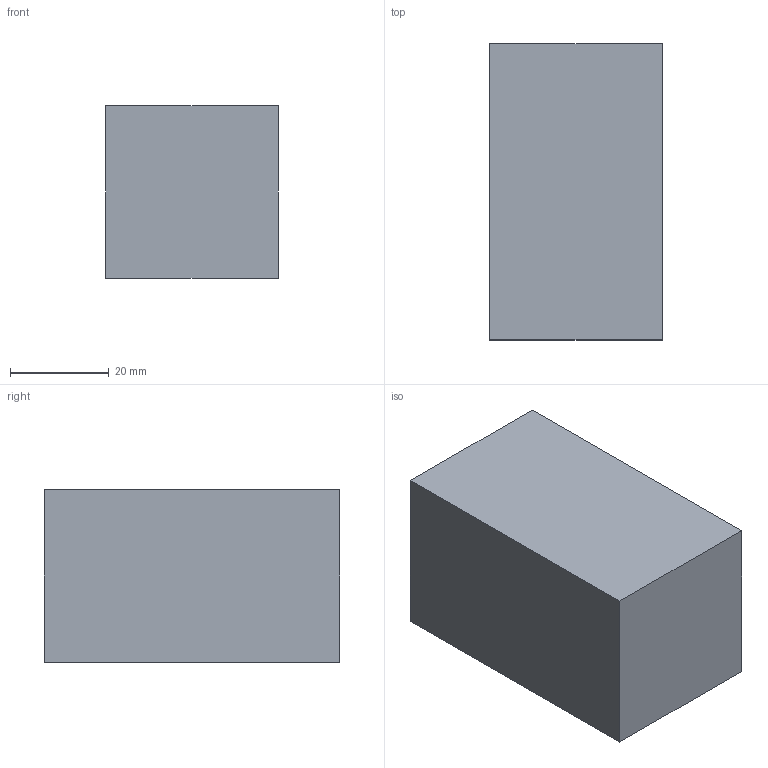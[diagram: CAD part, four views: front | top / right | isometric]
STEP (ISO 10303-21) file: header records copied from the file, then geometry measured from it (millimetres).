
FILE_DESCRIPTION (( 'STEP AP214' ), '1' );
FILE_NAME ('0337243.STEP', '2025-11-17T06:27:45', ( '' ), ( '' ), 'SwSTEP 2.0', 'SolidWorks 2024', '' );
FILE_SCHEMA (( 'AUTOMOTIVE_DESIGN' ));
Length unit declared in the file: millimetre
Products named in the file (1): 0337243
Bounding box: 35 x 60 x 35 mm (x, y, z)
Volume: 57881.4 mm3; surface area: 13830.7 mm2
Topology: 1 solids, 1 shells, 31 faces, 66 edges, 37 vertices
Faces by surface type: cone 12, cylinder 10, plane 7, torus 2
Entity records: 835 total; most frequent: DIRECTION 158, CARTESIAN_POINT 133, ORIENTED_EDGE 128, EDGE_CURVE 64, AXIS2_PLACEMENT_3D 62, VERTEX_POINT 37, LINE 34, VECTOR 34
